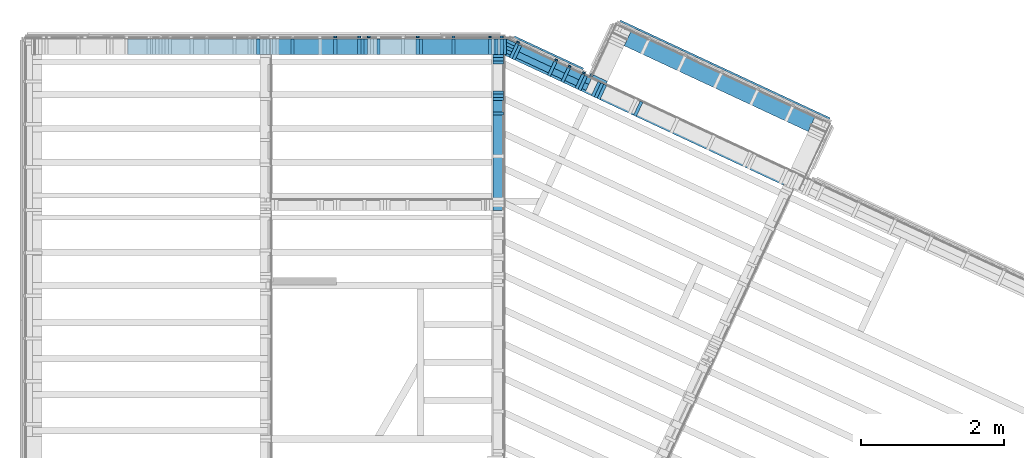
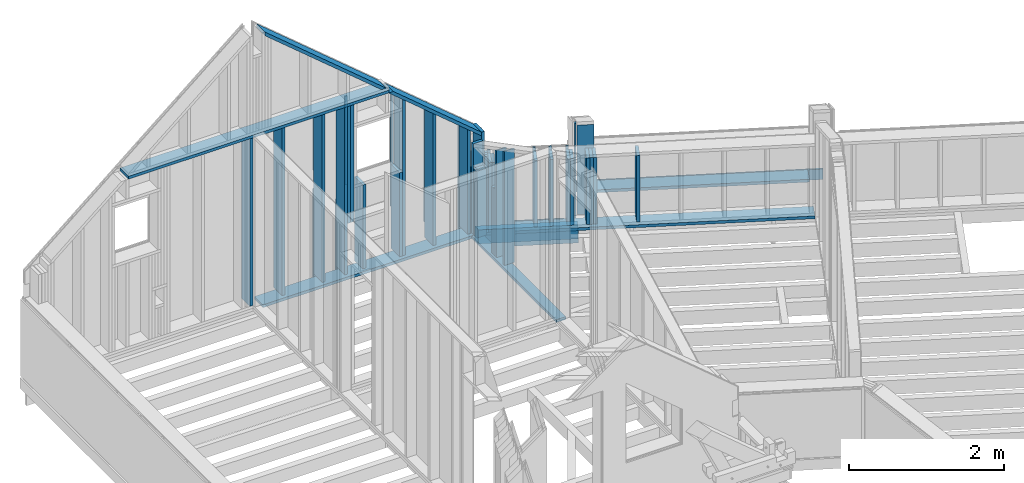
# One storey, part 12 of 24: 60 members.
"""IFC2X3 building model written with IfcOpenShell, lengths in metres."""

from ifc_helpers import new_model, si_unit, direction, frame, origin_with_axes, place, context, subcontext, project, spatial, faceted_brep, material, element, save


model = new_model("IFC2X3")

# Units and contexts
model_context = context("Model", 3, precision=1e-06, world=origin_with_axes(), true_north=direction((0.0, 1.0, 0.0)))
body_context = subcontext(model_context, "Body", "Model", "MODEL_VIEW")
ifc_project = project(units=[si_unit("LENGTHUNIT", "METRE"), si_unit("AREAUNIT", "SQUARE_METRE"), si_unit("VOLUMEUNIT", "CUBIC_METRE"), si_unit("PLANEANGLEUNIT", "RADIAN")], contexts=[model_context])

# Site, building, storey
site_placement = place(None, origin_with_axes())
site = spatial("IfcSite", under=ifc_project, at=site_placement, CompositionType="ELEMENT")
building_placement = place(site_placement, origin_with_axes())
building = spatial("IfcBuilding", under=site, at=building_placement, Name="Building 1", CompositionType="ELEMENT")
storey_placement = place(building_placement, origin_with_axes())
storey = spatial("IfcBuildingStorey", under=building, at=storey_placement, Name="Premier Etage", CompositionType="ELEMENT", Elevation=0.0)

# Members
ifc_material_1 = material(Name="Epicéa C24")
member_1_placement = place(storey_placement, frame((6.6013156, 7.786, 3.9460549), z_axis=(0.0, 1.0, 0.0), x_axis=(0.0, 0.0, -1.0)))
element("IfcMember", 1, at=member_1_placement, inside=storey, material=ifc_material_1, Name="Montant", context=body_context, shape_type="Brep", body=[
    faceted_brep([(0.0, -0.0225, 0.11), (0.0, 0.0225, 0.11), (0.0, 0.0225, -0.11), (0.0, -0.0225, -0.11), (1.0510549, 0.0225, 0.11), (1.0510549, 0.0225, -0.11), (1.0510549, -0.0225, 0.11), (1.0510549, -0.0225, -0.11)], [[[0, 1, 2, 3]], [[2, 1, 4, 5]], [[1, 0, 6, 4]], [[0, 3, 7, 6]], [[7, 5, 4, 6]], [[3, 2, 5, 7]]]),
])
for number, where, z_axis, x_axis, name in (
    (2, (6.6235, 7.5635, 3.9460549), (1.0, 0.0, 0.0), (0.0, 0.0, -1.0), "Montant"),
    (3, (6.6235, 7.0985, 3.9460549), (1.0, 0.0, 0.0), (0.0, 0.0, -1.0), "Montant"),
):
    element("IfcMember", number, at=place(storey_placement, frame(where, z_axis=z_axis, x_axis=x_axis)), inside=storey, material=ifc_material_1, Name=name, context=body_context, shape_type="Brep", body=[
        faceted_brep([(0.0, -0.0225, -0.0725), (0.0, -0.0225, 0.0725), (0.0, 0.0225, 0.0725), (0.0, 0.0225, -0.0725), (1.0510549, -0.0225, 0.0725), (1.0510549, 0.0225, 0.0725), (1.0510549, -0.0225, -0.0725), (1.0510549, 0.0225, -0.0725)], [[[0, 1, 2, 3]], [[2, 1, 4, 5]], [[1, 0, 6, 4]], [[0, 3, 7, 6]], [[3, 2, 5, 7]], [[6, 7, 5, 4]]]),
    ])
member_2_placement = place(storey_placement, frame((7.9260452, 7.3842957, 4.3310934), z_axis=(-0.9063078, 0.4226183, 0.0), x_axis=(0.0, 0.0, -1.0)))
element("IfcMember", 4, at=member_2_placement, inside=storey, material=ifc_material_1, Name="latte 27/40", context=body_context, shape_type="Brep", body=[
    faceted_brep([(1.5210934, 0.02, -0.012), (1.5210934, 0.02, 0.012), (1.5210934, -0.02, 0.012), (1.5210934, -0.02, -0.012), (0.0, 0.02, 0.012), (0.0, 0.02, -0.012), (0.0, -0.02, -0.012), (0.0, -0.02, 0.012)], [[[0, 1, 2, 3]], [[4, 5, 6, 7]], [[3, 6, 5, 0]], [[2, 7, 6, 3]], [[1, 4, 7, 2]], [[0, 5, 4, 1]]]),
])
member_3_placement = place(storey_placement, frame((5.544, 7.786, 5.3604071), z_axis=(0.0, 1.0, 0.0), x_axis=(0.0, 0.0, -1.0)))
element("IfcMember", 5, at=member_3_placement, inside=storey, material=ifc_material_1, Name="Montant", context=body_context, shape_type="Brep", body=[
    faceted_brep([(0.0377595, -0.0225, 0.11), (0.0, 0.0225, 0.11), (0.0, 0.0225, -0.11), (0.0377595, -0.0225, -0.11), (2.4654071, 0.0225, 0.11), (2.4654071, 0.0225, -0.11), (2.4654071, -0.0225, 0.11), (2.4654071, -0.0225, -0.11)], [[[0, 1, 2, 3]], [[2, 1, 4, 5]], [[1, 0, 6, 4]], [[3, 2, 5, 7]], [[0, 3, 7, 6]], [[7, 5, 4, 6]]]),
])
ifc_material_2 = material(Name="NH II")
member_4_placement = place(storey_placement, frame((8.3314294, 8.1471658, 2.7225), z_axis=(0.0, 0.0, -1.0), x_axis=(0.9063078, -0.4226183, 0.0)))
element("IfcMember", 6, at=member_4_placement, inside=storey, material=ifc_material_2, Name="contre poutre", context=body_context, shape_type="Brep", body=[
    faceted_brep([(3.244, 0.0135, -0.0825), (3.244, 0.0135, 0.0825), (3.244, -0.0135, 0.0825), (3.244, -0.0135, -0.0825), (0.0, 0.0135, 0.0825), (0.0, 0.0135, -0.0825), (0.0, -0.0135, -0.0825), (0.0, -0.0135, 0.0825)], [[[0, 1, 2, 3]], [[4, 5, 6, 7]], [[3, 6, 5, 0]], [[2, 7, 6, 3]], [[1, 4, 7, 2]], [[0, 5, 4, 1]]]),
])
member_5_placement = place(storey_placement, frame((8.4359857, 7.8981473, 2.8275), z_axis=(-0.4226183, -0.9063078, 0.0), x_axis=(0.9063078, -0.4226183, 0.0)))
element("IfcMember", 7, at=member_5_placement, inside=storey, material=ifc_material_1, Name="Lisse basse", context=body_context, shape_type="Brep", body=[
    faceted_brep([(0.0, 0.0225, -0.11), (2.844, 0.0225, -0.11), (2.844, -0.0225, -0.11), (0.0, -0.0225, -0.11), (0.0, 0.0225, 0.11), (2.844, 0.0225, 0.11), (0.0, -0.0225, 0.11), (2.844, -0.0225, 0.11)], [[[0, 1, 2, 3]], [[4, 5, 1, 0]], [[6, 7, 5, 4]], [[3, 2, 7, 6]], [[7, 2, 1, 5]], [[3, 6, 4, 0]]]),
])
member_6_placement = place(storey_placement, frame((4.3431423, 7.921, 4.221028), z_axis=(0.0, 1.0, 0.0), x_axis=(0.0, 0.0, -1.0)))
element("IfcMember", 8, at=member_6_placement, inside=storey, material=ifc_material_1, Name="latte 27/40", context=body_context, shape_type="Brep", body=[
    faceted_brep([(0.0, 0.02, -0.012), (0.0, -0.02, -0.012), (0.0, -0.02, 0.012), (0.0, 0.02, 0.012), (1.411028, -0.02, -0.012), (1.411028, -0.02, 0.012), (1.411028, 0.02, -0.012), (1.411028, 0.02, 0.012)], [[[0, 1, 2, 3]], [[2, 1, 4, 5]], [[1, 0, 6, 4]], [[6, 7, 5, 4]], [[3, 2, 5, 7]], [[0, 3, 7, 6]]]),
])
member_7_placement = place(storey_placement, frame((6.6235, 7.0535, 4.5888599), z_axis=(1.0, 0.0, 0.0), x_axis=(0.0, 0.0, -1.0)))
element("IfcMember", 9, at=member_7_placement, inside=storey, material=ifc_material_1, Name="Montant", context=body_context, shape_type="Brep", body=[
    faceted_brep([(0.0, -0.0225, -0.0725), (0.0, -0.0225, 0.0725), (0.0235466, 0.0225, 0.0725), (0.0235466, 0.0225, -0.0725), (1.6938599, -0.0225, 0.0725), (1.6938599, 0.0225, 0.0725), (1.6938599, -0.0225, -0.0725), (1.6938599, 0.0225, -0.0725)], [[[0, 1, 2, 3]], [[2, 1, 4, 5]], [[1, 0, 6, 4]], [[0, 3, 7, 6]], [[3, 2, 5, 7]], [[6, 7, 5, 4]]]),
])
member_8_placement = place(storey_placement, frame((6.6235, 7.6085, 3.9460549), z_axis=(1.0, 0.0, 0.0), x_axis=(0.0, 0.0, -1.0)))
element("IfcMember", 10, at=member_8_placement, inside=storey, material=ifc_material_1, Name="Montant", context=body_context, shape_type="Brep", body=[
    faceted_brep([(0.0, -0.0225, -0.0725), (0.0, -0.0225, 0.0725), (0.0, 0.0225, 0.0725), (0.0, 0.0225, -0.0725), (1.0510549, -0.0225, 0.0725), (1.0510549, 0.0225, 0.0725), (1.0510549, -0.0225, -0.0725), (1.0510549, 0.0225, -0.0725)], [[[0, 1, 2, 3]], [[2, 1, 4, 5]], [[1, 0, 6, 4]], [[0, 3, 7, 6]], [[3, 2, 5, 7]], [[6, 7, 5, 4]]]),
])
member_9_placement = place(storey_placement, frame((7.7683049, 7.2956547, 3.9460549), z_axis=(0.4226183, 0.9063078, 0.0), x_axis=(0.0, 0.0, -1.0)))
element("IfcMember", 11, at=member_9_placement, inside=storey, material=ifc_material_1, Name="Montant", context=body_context, shape_type="Brep", body=[
    faceted_brep([(1.0510549, -0.0225, -0.11), (1.0510549, 0.0225, -0.11), (1.0510549, 0.0225, 0.11), (1.0510549, -0.0225, 0.11), (0.0, -0.0225, 0.11), (0.0, -0.0225, -0.11), (0.0, 0.0225, -0.11), (0.0, 0.0225, 0.11)], [[[0, 1, 2, 3]], [[0, 3, 4, 5]], [[1, 0, 5, 6]], [[2, 1, 6, 7]], [[3, 2, 7, 4]], [[4, 7, 6, 5]]]),
])
member_10_placement = place(storey_placement, frame((6.6235, 7.1435, 3.9460549), z_axis=(1.0, 0.0, 0.0), x_axis=(0.0, 0.0, -1.0)))
element("IfcMember", 12, at=member_10_placement, inside=storey, material=ifc_material_1, Name="Montant", context=body_context, shape_type="Brep", body=[
    faceted_brep([(0.0, -0.0225, -0.0725), (0.0, -0.0225, 0.0725), (0.0, 0.0225, 0.0725), (0.0, 0.0225, -0.0725), (1.0510549, -0.0225, 0.0725), (1.0510549, 0.0225, 0.0725), (1.0510549, -0.0225, -0.0725), (1.0510549, 0.0225, -0.0725)], [[[0, 1, 2, 3]], [[2, 1, 4, 5]], [[1, 0, 6, 4]], [[0, 3, 7, 6]], [[3, 2, 5, 7]], [[6, 7, 5, 4]]]),
])
member_11_placement = place(storey_placement, frame((6.7186423, 7.786, 4.4335085), z_axis=(0.0, 1.0, 0.0), x_axis=(0.0, 0.0, -1.0)))
element("IfcMember", 13, at=member_11_placement, inside=storey, material=ifc_material_1, Name="Montant", context=body_context, shape_type="Brep", body=[
    faceted_brep([(0.0, 0.0225, -0.11), (0.0, -0.0225, -0.11), (0.0, -0.0225, 0.11), (0.0, 0.0225, 0.11), (1.5385085, -0.0225, -0.11), (1.5385085, -0.0225, 0.11), (1.5385085, 0.0225, -0.11), (1.5385085, 0.0225, 0.11)], [[[0, 1, 2, 3]], [[2, 1, 4, 5]], [[1, 0, 6, 4]], [[0, 3, 7, 6]], [[3, 2, 5, 7]], [[4, 6, 7, 5]]]),
])
member_12_placement = place(storey_placement, frame((7.8253583, 7.4180062, 3.9860549), z_axis=(0.4226183, 0.9063078, 0.0), x_axis=(0.0, 0.0, -1.0)))
element("IfcMember", 14, at=member_12_placement, inside=storey, material=ifc_material_1, Name="latte 27/40", context=body_context, shape_type="Brep", body=[
    faceted_brep([(1.1760549, -0.02, 0.012), (0.0, -0.02, 0.012), (0.0, -0.02, -0.012), (1.1760549, -0.02, -0.012), (1.1760549, 0.02, -0.012), (0.0, 0.02, -0.012), (0.0, 0.02, 0.012), (1.1760549, 0.02, 0.012)], [[[0, 1, 2, 3]], [[4, 3, 2, 5]], [[6, 7, 4, 5]], [[0, 7, 6, 1]], [[7, 0, 3, 4]], [[1, 6, 5, 2]]]),
])
member_13_placement = place(storey_placement, frame((5.499, 7.921, 5.4213847), z_axis=(0.0, 1.0, 0.0), x_axis=(0.0, 0.0, -1.0)))
element("IfcMember", 15, at=member_13_placement, inside=storey, material=ifc_material_1, Name="latte 27/40", context=body_context, shape_type="Brep", body=[
    faceted_brep([(1.8755909, -0.02, -0.012), (1.8755909, 0.02, -0.012), (1.8755909, 0.02, 0.012), (1.8755909, -0.02, 0.012), (0.0, 0.02, -0.012), (0.0, 0.02, 0.012), (0.0, -0.02, -0.012), (0.0, -0.02, 0.012)], [[[0, 1, 2, 3]], [[2, 1, 4, 5]], [[1, 0, 6, 4]], [[5, 4, 6, 7]], [[0, 3, 7, 6]], [[3, 2, 5, 7]]]),
])
member_14_placement = place(storey_placement, frame((5.499, 7.786, 4.218), z_axis=(0.0, 1.0, 0.0), x_axis=(0.0, 0.0, -1.0)))
element("IfcMember", 16, at=member_14_placement, inside=storey, material=ifc_material_1, Name="Montant", context=body_context, shape_type="Brep", body=[
    faceted_brep([(1.323, -0.0225, -0.11), (1.323, 0.0225, -0.11), (1.323, 0.0225, 0.11), (1.323, -0.0225, 0.11), (0.0, 0.0225, -0.11), (0.0, 0.0225, 0.11), (0.0, -0.0225, -0.11), (0.0, -0.0225, 0.11)], [[[0, 1, 2, 3]], [[2, 1, 4, 5]], [[1, 0, 6, 4]], [[0, 3, 7, 6]], [[3, 2, 5, 7]], [[7, 5, 4, 6]]]),
])
member_15_placement = place(storey_placement, frame((8.0473402, 7.3249765, 4.3051126), z_axis=(-0.9063078, 0.4226183, 0.0), x_axis=(0.0, 0.0, -1.0)))
element("IfcMember", 17, at=member_15_placement, inside=storey, material=ifc_material_1, Name="Montant", context=body_context, shape_type="Brep", body=[
    faceted_brep([(0.0259808, -0.0225, -0.11), (0.0, 0.0225, -0.11), (1.4101126, 0.0225, -0.11), (1.4101126, -0.0225, -0.11), (0.0, 0.0225, 0.11), (1.4101126, 0.0225, 0.11), (0.0259808, -0.0225, 0.11), (1.4101126, -0.0225, 0.11)], [[[0, 1, 2, 3]], [[1, 4, 5, 2]], [[4, 6, 7, 5]], [[6, 0, 3, 7]], [[0, 6, 4, 1]], [[3, 2, 5, 7]]]),
])
member_16_placement = place(storey_placement, frame((4.769, 7.786, 5.5354713), z_axis=(0.0, 1.0, 0.0), x_axis=(0.0, 0.0, -1.0)))
element("IfcMember", 18, at=member_16_placement, inside=storey, material=ifc_material_1, Name="Montant", context=body_context, shape_type="Brep", body=[
    faceted_brep([(1.8448103, 0.0225, 0.11), (1.8448103, -0.0225, 0.11), (1.8448103, -0.0225, -0.11), (1.8448103, 0.0225, -0.11), (0.0, -0.0225, 0.11), (0.0, -0.0225, -0.11), (0.0, 0.0225, 0.11), (0.0, 0.0225, -0.11)], [[[0, 1, 2, 3]], [[2, 1, 4, 5]], [[1, 0, 6, 4]], [[3, 2, 5, 7]], [[0, 3, 7, 6]], [[4, 6, 7, 5]]]),
])
member_17_placement = place(storey_placement, frame((8.5857094, 6.9144927, 3.9460549), z_axis=(0.4226183, 0.9063078, 0.0), x_axis=(0.0, 0.0, -1.0)))
element("IfcMember", 19, at=member_17_placement, inside=storey, material=ifc_material_1, Name="Montant", context=body_context, shape_type="Brep", body=[
    faceted_brep([(1.0510549, -0.0225, -0.11), (1.0510549, 0.0225, -0.11), (1.0510549, 0.0225, 0.11), (1.0510549, -0.0225, 0.11), (0.0, -0.0225, 0.11), (0.0, -0.0225, -0.11), (0.0, 0.0225, -0.11), (0.0, 0.0225, 0.11)], [[[0, 1, 2, 3]], [[0, 3, 4, 5]], [[1, 0, 5, 6]], [[2, 1, 6, 7]], [[3, 2, 7, 4]], [[4, 7, 6, 5]]]),
])
member_18_placement = place(storey_placement, frame((6.6235, 7.6535, 4.3256938), z_axis=(1.0, 0.0, 0.0), x_axis=(0.0, 0.0, -1.0)))
element("IfcMember", 20, at=member_18_placement, inside=storey, material=ifc_material_1, Name="Montant", context=body_context, shape_type="Brep", body=[
    faceted_brep([(0.0, -0.0225, 0.0725), (0.0, 0.0225, 0.0725), (0.0, 0.0225, -0.0725), (0.0, -0.0225, -0.0725), (1.4306938, 0.0225, 0.0725), (1.4306938, 0.0225, -0.0725), (1.4306938, -0.0225, 0.0725), (1.4306938, -0.0225, -0.0725)], [[[0, 1, 2, 3]], [[2, 1, 4, 5]], [[1, 0, 6, 4]], [[0, 3, 7, 6]], [[3, 2, 5, 7]], [[7, 5, 4, 6]]]),
])
member_19_placement = place(storey_placement, frame((6.9035143, 7.8478691, 3.9860549), z_axis=(0.4226183, 0.9063078, 0.0), x_axis=(0.0, 0.0, -1.0)))
element("IfcMember", 21, at=member_19_placement, inside=storey, material=ifc_material_1, Name="latte 27/40", context=body_context, shape_type="Brep", body=[
    faceted_brep([(1.1360549, -0.02, -0.012), (1.1360549, -0.02, 0.012), (0.0, -0.02, 0.012), (0.0, -0.02, -0.012), (1.1360549, 0.02, -0.012), (0.0, 0.02, -0.012), (1.1360549, 0.02, 0.012), (0.0, 0.02, 0.012)], [[[0, 1, 2, 3]], [[4, 0, 3, 5]], [[6, 4, 5, 7]], [[1, 6, 7, 2]], [[4, 6, 1, 0]], [[2, 7, 5, 3]]]),
])
member_20_placement = place(storey_placement, frame((6.8872447, 7.7064998, 3.9460549), z_axis=(0.4226183, 0.9063078, 0.0), x_axis=(0.0, 0.0, -1.0)))
element("IfcMember", 22, at=member_20_placement, inside=storey, material=ifc_material_1, Name="Montant", context=body_context, shape_type="Brep", body=[
    faceted_brep([(1.0510549, -0.0225, -0.11), (1.0510549, 0.0225, -0.11), (1.0510549, 0.0225, 0.11), (1.0510549, -0.0225, 0.11), (0.0, -0.0225, 0.11), (0.0, -0.0225, -0.11), (0.0, 0.0225, -0.11), (0.0, 0.0225, 0.11)], [[[0, 1, 2, 3]], [[0, 3, 4, 5]], [[1, 0, 5, 6]], [[2, 1, 6, 7]], [[3, 2, 7, 4]], [[4, 7, 6, 5]]]),
])
member_21_placement = place(storey_placement, frame((6.7783229, 7.7545324, 2.85), z_axis=(-0.9063078, 0.4226183, 0.0), x_axis=(0.0, 0.0, 1.0)))
element("IfcMember", 23, at=member_21_placement, inside=storey, material=ifc_material_1, Name="Montant", context=body_context, shape_type="Brep", body=[
    faceted_brep([(0.0, 0.0225, 0.0515162), (1.1410549, 0.0225, 0.0515162), (1.1410549, 0.0225, -0.0515162), (0.0, 0.0225, -0.0515162), (0.0, -0.0225, -0.0515162), (1.1410549, -0.0225, -0.0515162), (1.1410549, -0.0225, 0.0305323), (0.0, -0.0225, 0.0305323)], [[[0, 1, 2, 3]], [[4, 3, 2, 5]], [[6, 7, 4, 5]], [[1, 6, 5, 2]], [[0, 7, 6, 1]], [[7, 0, 3, 4]]]),
])
member_22_placement = place(storey_placement, frame((6.6736423, 7.786, 3.9460549), z_axis=(0.0, 1.0, 0.0), x_axis=(0.0, 0.0, -1.0)))
element("IfcMember", 24, at=member_22_placement, inside=storey, material=ifc_material_1, Name="Montant", context=body_context, shape_type="Brep", body=[
    faceted_brep([(0.0, -0.0225, 0.11), (0.0, 0.0225, 0.11), (0.0, 0.0225, -0.11), (0.0, -0.0225, -0.11), (1.0510549, 0.0225, 0.11), (1.0510549, 0.0225, -0.11), (1.0510549, -0.0225, 0.11), (1.0510549, -0.0225, -0.11)], [[[0, 1, 2, 3]], [[2, 1, 4, 5]], [[1, 0, 6, 4]], [[0, 3, 7, 6]], [[7, 5, 4, 6]], [[3, 2, 5, 7]]]),
])
for number, where, z_axis, x_axis, name in (
    (25, (8.0366682, 7.1705148, 3.9460549), (0.4226183, 0.9063078, 0.0), (0.0, 0.0, -1.0), "Montant"),
    (26, (7.9958843, 7.1895326, 3.9460549), (0.4226183, 0.9063078, 0.0), (0.0, 0.0, -1.0), "Montant"),
):
    element("IfcMember", number, at=place(storey_placement, frame(where, z_axis=z_axis, x_axis=x_axis)), inside=storey, material=ifc_material_1, Name=name, context=body_context, shape_type="Brep", body=[
        faceted_brep([(1.0510549, -0.0225, -0.11), (1.0510549, 0.0225, -0.11), (1.0510549, 0.0225, 0.11), (1.0510549, -0.0225, 0.11), (0.0, -0.0225, 0.11), (0.0, -0.0225, -0.11), (0.0, 0.0225, -0.11), (0.0, 0.0225, 0.11)], [[[0, 1, 2, 3]], [[0, 3, 4, 5]], [[1, 0, 5, 6]], [[2, 1, 6, 7]], [[3, 2, 7, 4]], [[4, 7, 6, 5]]]),
    ])
member_23_placement = place(storey_placement, frame((4.3431423, 7.921, 5.5204713), z_axis=(0.0, 1.0, 0.0), x_axis=(0.0, 0.0, -1.0)))
element("IfcMember", 27, at=member_23_placement, inside=storey, material=ifc_material_1, Name="latte 27/40", context=body_context, shape_type="Brep", body=[
    faceted_brep([(1.0047978, -0.02, -0.012), (1.0047978, 0.02, -0.012), (1.0047978, 0.02, 0.012), (1.0047978, -0.02, 0.012), (0.0, 0.02, -0.012), (0.0, 0.02, 0.012), (0.0, -0.02, -0.012), (0.0, -0.02, 0.012)], [[[0, 1, 2, 3]], [[2, 1, 4, 5]], [[1, 0, 6, 4]], [[5, 4, 6, 7]], [[0, 3, 7, 6]], [[3, 2, 5, 7]]]),
])
member_24_placement = place(storey_placement, frame((6.7878318, 7.7997503, 2.85), z_axis=(-0.9063078, 0.4226183, 0.0), x_axis=(0.0, 0.0, 1.0)))
element("IfcMember", 28, at=member_24_placement, inside=storey, material=ifc_material_1, Name="Montant", context=body_context, shape_type="Brep", body=[
    faceted_brep([(0.0, 0.0225, 0.0620081), (1.1410549, 0.0225, 0.0620081), (1.1410549, 0.0225, -0.0620081), (0.0, 0.0225, -0.0620081), (0.0, -0.0225, -0.0620081), (1.1410549, -0.0225, -0.0620081), (1.1410549, -0.0225, 0.0410242), (0.0, -0.0225, 0.0410242)], [[[0, 1, 2, 3]], [[4, 3, 2, 5]], [[6, 7, 4, 5]], [[1, 6, 5, 2]], [[0, 7, 6, 1]], [[7, 0, 3, 4]]]),
])
member_25_placement = place(storey_placement, frame((6.7973407, 7.8449683, 2.85), z_axis=(-0.9063078, 0.4226183, 0.0), x_axis=(0.0, 0.0, 1.0)))
element("IfcMember", 29, at=member_25_placement, inside=storey, material=ifc_material_1, Name="Montant", context=body_context, shape_type="Brep", body=[
    faceted_brep([(0.0, 0.0225, 0.0725), (1.1410549, 0.0225, 0.0725), (1.1410549, 0.0225, -0.0725), (0.0, 0.0225, -0.0725), (0.0, -0.0225, -0.0725), (1.1410549, -0.0225, -0.0725), (1.1410549, -0.0225, 0.0515162), (0.0, -0.0225, 0.0515162)], [[[0, 1, 2, 3]], [[4, 3, 2, 5]], [[6, 7, 4, 5]], [[1, 6, 5, 2]], [[0, 7, 6, 1]], [[7, 0, 3, 4]]]),
])
member_26_placement = place(storey_placement, frame((6.7109068, 7.8593437, 2.695), z_axis=(0.0, 0.0, -1.0), x_axis=(0.9063078, -0.4226183, 0.0)))
element("IfcMember", 30, at=member_26_placement, inside=storey, material=ifc_material_2, Name="Ceinture", context=body_context, shape_type="Brep", body=[
    faceted_brep([(0.011911, -0.046, 0.11), (0.0, -0.0404458, 0.11), (0.0, -0.0404458, -0.11), (0.011911, -0.046, -0.11), (0.0403103, 0.046, 0.11), (0.0403103, 0.046, -0.11), (1.3270533, -0.046, 0.11), (1.3270533, 0.046, 0.11), (1.3270533, 0.046, -0.11), (1.3270533, -0.046, -0.11)], [[[0, 1, 2, 3]], [[2, 1, 4, 5]], [[1, 0, 6, 7, 4]], [[3, 2, 5, 8, 9]], [[5, 4, 7, 8]], [[0, 3, 9, 6]], [[6, 9, 8, 7]]]),
])
member_27_placement = place(storey_placement, frame((3.4520373, 7.786, 7.1262642), z_axis=(0.0, -1.0, 0.0), x_axis=(0.7660444, 0.0, -0.6427876)))
element("IfcMember", 31, at=member_27_placement, inside=storey, material=ifc_material_1, Name="Montant", context=body_context, shape_type="Brep", body=[
    faceted_brep([(0.0377595, -0.0225, -0.11), (0.0, 0.0225, -0.11), (2.3616337, 0.0225, -0.11), (2.3080047, -0.0225, -0.11), (0.0377595, -0.0225, 0.11), (2.3080047, -0.0225, 0.11), (0.0, 0.0225, 0.11), (2.3616337, 0.0225, 0.11)], [[[0, 1, 2, 3]], [[4, 0, 3, 5]], [[6, 4, 5, 7]], [[1, 6, 7, 2]], [[0, 4, 6, 1]], [[2, 7, 5, 3]]]),
])
for number, where, z_axis, x_axis, name in (
    (32, (7.5691946, 7.3885013, 3.9460549), (0.4226183, 0.9063078, 0.0), (0.0, 0.0, -1.0), "Montant"),
    (33, (7.8090887, 7.2766369, 3.9460549), (0.4226183, 0.9063078, 0.0), (0.0, 0.0, -1.0), "Montant"),
):
    element("IfcMember", number, at=place(storey_placement, frame(where, z_axis=z_axis, x_axis=x_axis)), inside=storey, material=ifc_material_1, Name=name, context=body_context, shape_type="Brep", body=[
        faceted_brep([(1.0510549, -0.0225, -0.11), (1.0510549, 0.0225, -0.11), (1.0510549, 0.0225, 0.11), (1.0510549, -0.0225, 0.11), (0.0, -0.0225, 0.11), (0.0, -0.0225, -0.11), (0.0, 0.0225, -0.11), (0.0, 0.0225, 0.11)], [[[0, 1, 2, 3]], [[0, 3, 4, 5]], [[1, 0, 5, 6]], [[2, 1, 6, 7]], [[3, 2, 7, 4]], [[4, 7, 6, 5]]]),
    ])
member_28_placement = place(storey_placement, frame((6.6235, 6.8494744, 4.6956177), z_axis=(1.0, 0.0, 0.0), x_axis=(0.0, 0.0, -1.0)))
element("IfcMember", 34, at=member_28_placement, inside=storey, material=ifc_material_1, Name="Montant", context=body_context, shape_type="Brep", body=[
    faceted_brep([(0.0, -0.0225, 0.0725), (0.0235466, 0.0225, 0.0725), (0.0235466, 0.0225, -0.0725), (0.0, -0.0225, -0.0725), (1.8006177, 0.0225, 0.0725), (1.8006177, 0.0225, -0.0725), (1.8006177, -0.0225, 0.0725), (1.8006177, -0.0225, -0.0725)], [[[0, 1, 2, 3]], [[2, 1, 4, 5]], [[1, 0, 6, 4]], [[0, 3, 7, 6]], [[7, 5, 4, 6]], [[3, 2, 5, 7]]]),
])
member_29_placement = place(storey_placement, frame((6.7411423, 7.786, 2.8275), z_axis=(0.0, 1.0, 0.0), x_axis=(-1.0, 0.0, 0.0)))
element("IfcMember", 35, at=member_29_placement, inside=storey, material=ifc_material_1, Name="Lisse basse", context=body_context, shape_type="Brep", body=[
    faceted_brep([(3.3051424, -0.0225, -0.11), (3.3051424, -0.0225, 0.11), (0.0, -0.0225, 0.11), (0.0447976, -0.0225, -0.11), (3.3051424, 0.0225, -0.11), (0.0447976, 0.0225, -0.11), (3.3051424, 0.0225, 0.11), (0.0, 0.0225, 0.11)], [[[0, 1, 2, 3]], [[4, 0, 3, 5]], [[6, 4, 5, 7]], [[1, 6, 7, 2]], [[4, 6, 1, 0]], [[2, 7, 5, 3]]]),
])
member_30_placement = place(storey_placement, frame((6.8464609, 7.7255176, 3.9460549), z_axis=(0.4226183, 0.9063078, 0.0), x_axis=(0.0, 0.0, -1.0)))
element("IfcMember", 36, at=member_30_placement, inside=storey, material=ifc_material_1, Name="Montant", context=body_context, shape_type="Brep", body=[
    faceted_brep([(1.0960549, 0.0225, 0.11), (0.0, 0.0225, 0.11), (0.0, -0.0225, 0.11), (1.0960549, -0.0225, 0.11), (0.0, -0.0225, -0.11), (0.0, 0.0225, -0.11), (1.0960549, -0.0225, -0.11), (1.0960549, 0.0225, -0.11)], [[[0, 1, 2, 3]], [[4, 2, 1, 5]], [[4, 6, 3, 2]], [[5, 7, 6, 4]], [[1, 0, 7, 5]], [[3, 6, 7, 0]]]),
])
member_31_placement = place(storey_placement, frame((5.9985, 7.921, 5.0021179), z_axis=(0.0, 1.0, 0.0), x_axis=(0.0, 0.0, -1.0)))
element("IfcMember", 37, at=member_31_placement, inside=storey, material=ifc_material_1, Name="latte 27/40", context=body_context, shape_type="Brep", body=[
    faceted_brep([(1.8754544, 0.02, -0.012), (1.8754544, 0.02, 0.012), (1.8754544, -0.02, 0.012), (1.8754544, -0.02, -0.012), (0.0, 0.02, 0.012), (0.0, 0.02, -0.012), (0.0, -0.02, -0.012), (0.0, -0.02, 0.012)], [[[0, 1, 2, 3]], [[4, 5, 6, 7]], [[3, 6, 5, 0]], [[2, 7, 6, 3]], [[1, 4, 7, 2]], [[0, 5, 4, 1]]]),
])
for number, where, z_axis, x_axis, name in (
    (38, (7.3811825, 7.4761728, 3.9460549), (0.4226183, 0.9063078, 0.0), (0.0, 0.0, -1.0), "Montant"),
    (39, (8.077452, 7.151497, 3.9460549), (0.4226183, 0.9063078, 0.0), (0.0, 0.0, -1.0), "Montant"),
):
    element("IfcMember", number, at=place(storey_placement, frame(where, z_axis=z_axis, x_axis=x_axis)), inside=storey, material=ifc_material_1, Name=name, context=body_context, shape_type="Brep", body=[
        faceted_brep([(1.0510549, -0.0225, -0.11), (1.0510549, 0.0225, -0.11), (1.0510549, 0.0225, 0.11), (1.0510549, -0.0225, 0.11), (0.0, -0.0225, 0.11), (0.0, -0.0225, -0.11), (0.0, 0.0225, -0.11), (0.0, 0.0225, 0.11)], [[[0, 1, 2, 3]], [[0, 3, 4, 5]], [[1, 0, 5, 6]], [[2, 1, 6, 7]], [[3, 2, 7, 4]], [[4, 7, 6, 5]]]),
    ])
member_32_placement = place(storey_placement, frame((6.5113156, 7.921, 4.5718145), z_axis=(0.0, 1.0, 0.0), x_axis=(0.0, 0.0, -1.0)))
element("IfcMember", 40, at=member_32_placement, inside=storey, material=ifc_material_1, Name="latte 27/40", context=body_context, shape_type="Brep", body=[
    faceted_brep([(1.7618145, 0.02, 0.012), (0.0, 0.02, 0.012), (0.0, -0.02, 0.012), (1.7618145, -0.02, 0.012), (0.0, -0.02, -0.012), (1.7618145, -0.02, -0.012), (0.0, 0.02, -0.012), (1.7618145, 0.02, -0.012)], [[[0, 1, 2, 3]], [[3, 2, 4, 5]], [[5, 4, 6, 7]], [[7, 6, 1, 0]], [[7, 0, 3, 5]], [[1, 6, 4, 2]]]),
])
member_33_placement = place(storey_placement, frame((6.6235, 5.4902176, 2.8275), z_axis=(-1.0, 0.0, 0.0), x_axis=(0.0, 1.0, 0.0)))
element("IfcMember", 41, at=member_33_placement, inside=storey, material=ifc_material_1, Name="Lisse basse", context=body_context, shape_type="Brep", body=[
    faceted_brep([(0.0, 0.0225, -0.0725), (0.0, 0.0225, 0.0725), (2.1857824, 0.0225, 0.0725), (2.1857824, 0.0225, -0.0725), (0.0, -0.0225, 0.0725), (2.1857824, -0.0225, 0.0725), (0.0, -0.0225, -0.0725), (2.1857824, -0.0225, -0.0725)], [[[0, 1, 2, 3]], [[1, 4, 5, 2]], [[4, 6, 7, 5]], [[2, 5, 7, 3]], [[6, 0, 3, 7]], [[0, 6, 4, 1]]]),
])
member_34_placement = place(storey_placement, frame((10.6635051, 5.9456006, 2.8275), z_axis=(0.4226183, 0.9063078, 0.0), x_axis=(-0.9063078, 0.4226183, 0.0)))
element("IfcMember", 42, at=member_34_placement, inside=storey, material=ifc_material_1, Name="Lisse basse", context=body_context, shape_type="Brep", body=[
    faceted_brep([(4.3263638, -0.0225, -0.11), (4.3263638, 0.0225, -0.11), (4.3791424, 0.0225, 0.11), (4.3791424, -0.0225, 0.11), (0.0, 0.0225, -0.11), (0.0, 0.0225, 0.11), (0.0, -0.0225, -0.11), (0.0, -0.0225, 0.11)], [[[0, 1, 2, 3]], [[2, 1, 4, 5]], [[1, 0, 6, 4]], [[5, 4, 6, 7]], [[5, 7, 3, 2]], [[0, 3, 7, 6]]]),
])
member_35_placement = place(storey_placement, frame((5.9985, 7.786, 4.9790363), z_axis=(0.0, 1.0, 0.0), x_axis=(0.0, 0.0, -1.0)))
element("IfcMember", 43, at=member_35_placement, inside=storey, material=ifc_material_1, Name="Montant", context=body_context, shape_type="Brep", body=[
    faceted_brep([(0.0, 0.0225, -0.11), (0.0377595, -0.0225, -0.11), (0.0377595, -0.0225, 0.11), (0.0, 0.0225, 0.11), (2.0840363, -0.0225, -0.11), (2.0840363, -0.0225, 0.11), (2.0840363, 0.0225, -0.11), (2.0840363, 0.0225, 0.11)], [[[0, 1, 2, 3]], [[2, 1, 4, 5]], [[1, 0, 6, 4]], [[0, 3, 7, 6]], [[3, 2, 5, 7]], [[4, 6, 7, 5]]]),
])
member_36_placement = place(storey_placement, frame((6.6736423, 7.921, 3.9910549), z_axis=(0.0, 1.0, 0.0), x_axis=(0.0, 0.0, -1.0)))
element("IfcMember", 44, at=member_36_placement, inside=storey, material=ifc_material_1, Name="latte 27/40", context=body_context, shape_type="Brep", body=[
    faceted_brep([(1.1810549, 0.02, -0.012), (1.1810549, 0.02, 0.012), (1.1810549, -0.02, 0.012), (1.1810549, -0.02, -0.012), (0.0, 0.02, 0.012), (0.0, 0.02, -0.012), (0.0, -0.02, -0.012), (0.0, -0.02, 0.012)], [[[0, 1, 2, 3]], [[4, 5, 6, 7]], [[3, 6, 5, 0]], [[2, 7, 6, 3]], [[1, 4, 7, 2]], [[0, 5, 4, 1]]]),
])
member_37_placement = place(storey_placement, frame((6.7085595, 7.7589275, 2.695), z_axis=(0.0, 0.0, -1.0), x_axis=(0.9063078, -0.4226183, 0.0)))
element("IfcMember", 45, at=member_37_placement, inside=storey, material=ifc_material_2, Name="Ceinture", context=body_context, shape_type="Brep", body=[
    faceted_brep([(0.0, -0.046, 0.11), (0.0, -0.046, -0.11), (1.286743, -0.046, -0.11), (1.286743, -0.046, 0.11), (0.0429003, 0.046, -0.11), (1.286743, 0.046, -0.11), (0.0429003, 0.046, 0.11), (1.286743, 0.046, 0.11)], [[[0, 1, 2, 3]], [[1, 4, 5, 2]], [[4, 6, 7, 5]], [[6, 0, 3, 7]], [[0, 6, 4, 1]], [[3, 2, 5, 7]]]),
])
member_38_placement = place(storey_placement, frame((4.679, 7.786, 5.5354713), z_axis=(0.0, 1.0, 0.0), x_axis=(0.0, 0.0, -1.0)))
element("IfcMember", 46, at=member_38_placement, inside=storey, material=ifc_material_1, Name="Montant", context=body_context, shape_type="Brep", body=[
    faceted_brep([(2.6404713, -0.0225, 0.11), (2.6404713, 0.0225, 0.11), (0.0, 0.0225, 0.11), (0.0, -0.0225, 0.11), (2.6404713, -0.0225, -0.11), (2.6404713, 0.0225, -0.11), (0.0, -0.0225, -0.11), (0.0, 0.0225, -0.11)], [[[0, 1, 2, 3]], [[4, 5, 1, 0]], [[4, 0, 3, 6]], [[5, 4, 6, 7]], [[1, 5, 7, 2]], [[3, 2, 7, 6]]]),
])
member_39_placement = place(storey_placement, frame((4.724, 7.786, 5.5354713), z_axis=(0.0, 1.0, 0.0), x_axis=(0.0, 0.0, -1.0)))
element("IfcMember", 47, at=member_39_placement, inside=storey, material=ifc_material_1, Name="Montant", context=body_context, shape_type="Brep", body=[
    faceted_brep([(1.8448103, 0.0225, 0.11), (1.8448103, -0.0225, 0.11), (1.8448103, -0.0225, -0.11), (1.8448103, 0.0225, -0.11), (0.0, -0.0225, 0.11), (0.0, -0.0225, -0.11), (0.0, 0.0225, 0.11), (0.0, 0.0225, -0.11)], [[[0, 1, 2, 3]], [[2, 1, 4, 5]], [[1, 0, 6, 4]], [[3, 2, 5, 7]], [[0, 3, 7, 6]], [[4, 6, 7, 5]]]),
])
member_40_placement = place(storey_placement, frame((4.679, 7.921, 3.93921), z_axis=(0.0, 1.0, 0.0), x_axis=(0.0, 0.0, -1.0)))
element("IfcMember", 48, at=member_40_placement, inside=storey, material=ifc_material_1, Name="latte 27/40", context=body_context, shape_type="Brep", body=[
    faceted_brep([(0.0, 0.02, -0.012), (0.0, -0.02, -0.012), (0.0, -0.02, 0.012), (0.0, 0.02, 0.012), (1.12921, -0.02, -0.012), (1.12921, -0.02, 0.012), (1.12921, 0.02, -0.012), (1.12921, 0.02, 0.012)], [[[0, 1, 2, 3]], [[2, 1, 4, 5]], [[1, 0, 6, 4]], [[6, 7, 5, 4]], [[3, 2, 5, 7]], [[0, 3, 7, 6]]]),
])
member_41_placement = place(storey_placement, frame((4.949, 7.786, 4.218), z_axis=(0.0, 1.0, 0.0), x_axis=(0.0, 0.0, -1.0)))
element("IfcMember", 49, at=member_41_placement, inside=storey, material=ifc_material_1, Name="Montant", context=body_context, shape_type="Brep", body=[
    faceted_brep([(1.323, -0.0225, -0.11), (1.323, 0.0225, -0.11), (1.323, 0.0225, 0.11), (1.323, -0.0225, 0.11), (0.0, 0.0225, -0.11), (0.0, 0.0225, 0.11), (0.0, -0.0225, -0.11), (0.0, -0.0225, 0.11)], [[[0, 1, 2, 3]], [[2, 1, 4, 5]], [[1, 0, 6, 4]], [[0, 3, 7, 6]], [[3, 2, 5, 7]], [[7, 5, 4, 6]]]),
])
member_42_placement = place(storey_placement, frame((4.814, 7.921, 5.5204713), z_axis=(0.0, 1.0, 0.0), x_axis=(0.0, 0.0, -1.0)))
element("IfcMember", 50, at=member_42_placement, inside=storey, material=ifc_material_1, Name="latte 27/40", context=body_context, shape_type="Brep", body=[
    faceted_brep([(1.3998943, -0.02, -0.012), (1.3998943, 0.02, -0.012), (1.3998943, 0.02, 0.012), (1.3998943, -0.02, 0.012), (0.0, 0.02, -0.012), (0.0, 0.02, 0.012), (0.0, -0.02, -0.012), (0.0, -0.02, 0.012)], [[[0, 1, 2, 3]], [[2, 1, 4, 5]], [[1, 0, 6, 4]], [[5, 4, 6, 7]], [[0, 3, 7, 6]], [[3, 2, 5, 7]]]),
])
member_43_placement = place(storey_placement, frame((7.6262481, 7.5108529, 3.9860549), z_axis=(0.4226183, 0.9063078, 0.0), x_axis=(0.0, 0.0, -1.0)))
element("IfcMember", 51, at=member_43_placement, inside=storey, material=ifc_material_1, Name="latte 27/40", context=body_context, shape_type="Brep", body=[
    faceted_brep([(1.1760549, -0.02, 0.012), (0.0, -0.02, 0.012), (0.0, -0.02, -0.012), (1.1760549, -0.02, -0.012), (1.1760549, 0.02, -0.012), (0.0, 0.02, -0.012), (0.0, 0.02, 0.012), (1.1760549, 0.02, 0.012)], [[[0, 1, 2, 3]], [[4, 3, 2, 5]], [[6, 7, 4, 5]], [[0, 7, 6, 1]], [[7, 0, 3, 4]], [[1, 6, 5, 2]]]),
])
member_44_placement = place(storey_placement, frame((6.8494433, 7.9243899, 2.7225), z_axis=(0.0, 0.0, -1.0), x_axis=(0.9063078, -0.4226183, 0.0)))
element("IfcMember", 52, at=member_44_placement, inside=storey, material=ifc_material_2, Name="contre poutre", context=body_context, shape_type="Brep", body=[
    faceted_brep([(1.0659864, 0.0135, -0.0825), (1.0659864, 0.0135, 0.0825), (1.0659864, -0.0135, 0.0825), (1.0659864, -0.0135, -0.0825), (0.0, 0.0135, 0.0825), (0.0, 0.0135, -0.0825), (0.0, -0.0135, -0.0825), (0.0, -0.0135, 0.0825)], [[[0, 1, 2, 3]], [[4, 5, 6, 7]], [[3, 6, 5, 0]], [[2, 7, 6, 3]], [[1, 4, 7, 2]], [[0, 5, 4, 1]]]),
])
member_45_placement = place(storey_placement, frame((6.5113156, 7.786, 4.5487329), z_axis=(0.0, 1.0, 0.0), x_axis=(0.0, 0.0, -1.0)))
element("IfcMember", 53, at=member_45_placement, inside=storey, material=ifc_material_1, Name="Montant", context=body_context, shape_type="Brep", body=[
    faceted_brep([(0.0, 0.0225, -0.11), (0.0, 0.0225, 0.11), (1.6537329, 0.0225, 0.11), (1.6537329, 0.0225, -0.11), (0.0377595, -0.0225, 0.11), (1.6537329, -0.0225, 0.11), (0.0377595, -0.0225, -0.11), (1.6537329, -0.0225, -0.11)], [[[0, 1, 2, 3]], [[1, 4, 5, 2]], [[4, 6, 7, 5]], [[6, 0, 3, 7]], [[0, 6, 4, 1]], [[7, 3, 2, 5]]]),
])
member_46_placement = place(storey_placement, frame((6.5563156, 7.786, 3.9460549), z_axis=(0.0, 1.0, 0.0), x_axis=(0.0, 0.0, -1.0)))
element("IfcMember", 54, at=member_46_placement, inside=storey, material=ifc_material_1, Name="Montant", context=body_context, shape_type="Brep", body=[
    faceted_brep([(0.0, -0.0225, 0.11), (0.0, 0.0225, 0.11), (0.0, 0.0225, -0.11), (0.0, -0.0225, -0.11), (1.0510549, 0.0225, 0.11), (1.0510549, 0.0225, -0.11), (1.0510549, -0.0225, 0.11), (1.0510549, -0.0225, -0.11)], [[[0, 1, 2, 3]], [[2, 1, 4, 5]], [[1, 0, 6, 4]], [[0, 3, 7, 6]], [[7, 5, 4, 6]], [[3, 2, 5, 7]]]),
])
for number, where, z_axis, x_axis, name in (
    (55, (4.3431423, 7.786, 5.5354713), (0.0, 1.0, 0.0), (0.0, 0.0, -1.0), "Montant"),
    (56, (3.7431423, 7.786, 5.5354713), (0.0, 1.0, 0.0), (0.0, 0.0, -1.0), "Montant"),
):
    element("IfcMember", number, at=place(storey_placement, frame(where, z_axis=z_axis, x_axis=x_axis)), inside=storey, material=ifc_material_1, Name=name, context=body_context, shape_type="Brep", body=[
        faceted_brep([(2.6404713, -0.0225, 0.11), (2.6404713, 0.0225, 0.11), (0.0, 0.0225, 0.11), (0.0, -0.0225, 0.11), (2.6404713, -0.0225, -0.11), (2.6404713, 0.0225, -0.11), (0.0, -0.0225, -0.11), (0.0, 0.0225, -0.11)], [[[0, 1, 2, 3]], [[4, 5, 1, 0]], [[4, 0, 3, 6]], [[5, 4, 6, 7]], [[1, 5, 7, 2]], [[3, 2, 7, 6]]]),
    ])
member_47_placement = place(storey_placement, frame((6.710605, 7.786, 4.3920011), z_axis=(0.0, -1.0, 0.0), x_axis=(-0.7660444, 0.0, 0.6427876)))
element("IfcMember", 57, at=member_47_placement, inside=storey, material=ifc_material_1, Name="Montant", context=body_context, shape_type="Brep", body=[
    faceted_brep([(0.0, 0.0225, -0.11), (0.0377595, -0.0225, -0.11), (0.0377595, -0.0225, 0.11), (0.0, 0.0225, 0.11), (1.7521093, -0.0225, -0.11), (1.7521093, -0.0225, 0.11), (1.8057383, 0.0225, -0.11), (1.8057383, 0.0225, 0.11)], [[[0, 1, 2, 3]], [[2, 1, 4, 5]], [[1, 0, 6, 4]], [[0, 3, 7, 6]], [[5, 4, 6, 7]], [[3, 2, 5, 7]]]),
])
member_48_placement = place(storey_placement, frame((5.3206163, 7.786, 5.5579713), z_axis=(0.0, -1.0, 0.0), x_axis=(-1.0, 0.0, 0.0)))
element("IfcMember", 58, at=member_48_placement, inside=storey, material=ifc_material_1, Name="Montant", context=body_context, shape_type="Brep", body=[
    faceted_brep([(0.0, 0.0225, 0.11), (0.0, 0.0225, -0.11), (0.0, -0.0225, -0.11), (0.0, -0.0225, 0.11), (3.8883953, 0.0225, -0.11), (3.8883953, -0.0225, -0.11), (3.8883953, 0.0225, 0.11), (3.8883953, -0.0225, 0.11)], [[[0, 1, 2, 3]], [[2, 1, 4, 5]], [[1, 0, 6, 4]], [[5, 4, 6, 7]], [[3, 2, 5, 7]], [[0, 3, 7, 6]]]),
])
member_49_placement = place(storey_placement, frame((3.264, 7.786, 5.5354713), z_axis=(0.0, 1.0, 0.0), x_axis=(0.0, 0.0, -1.0)))
element("IfcMember", 59, at=member_49_placement, inside=storey, material=ifc_material_1, Name="Montant", context=body_context, shape_type="Brep", body=[
    faceted_brep([(2.6404713, -0.0225, 0.11), (2.6404713, 0.0225, 0.11), (0.0, 0.0225, 0.11), (0.0, -0.0225, 0.11), (2.6404713, -0.0225, -0.11), (2.6404713, 0.0225, -0.11), (0.0, -0.0225, -0.11), (0.0, 0.0225, -0.11)], [[[0, 1, 2, 3]], [[4, 5, 1, 0]], [[4, 0, 3, 6]], [[5, 4, 6, 7]], [[1, 5, 7, 2]], [[3, 2, 7, 6]]]),
])
member_50_placement = place(storey_placement, frame((7.4382359, 7.5985244, 3.9860549), z_axis=(0.4226183, 0.9063078, 0.0), x_axis=(0.0, 0.0, -1.0)))
element("IfcMember", 60, at=member_50_placement, inside=storey, material=ifc_material_1, Name="latte 27/40", context=body_context, shape_type="Brep", body=[
    faceted_brep([(1.1760549, -0.02, 0.012), (0.0, -0.02, 0.012), (0.0, -0.02, -0.012), (1.1760549, -0.02, -0.012), (1.1760549, 0.02, -0.012), (0.0, 0.02, -0.012), (0.0, 0.02, 0.012), (1.1760549, 0.02, 0.012)], [[[0, 1, 2, 3]], [[4, 3, 2, 5]], [[6, 7, 4, 5]], [[0, 7, 6, 1]], [[7, 0, 3, 4]], [[1, 6, 5, 2]]]),
])

save(model, "model.ifc")
